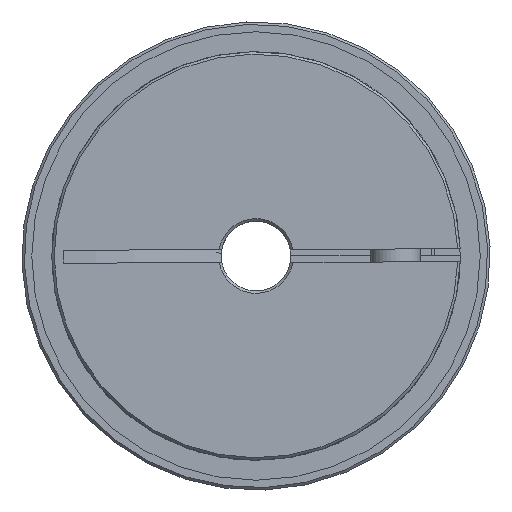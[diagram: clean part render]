
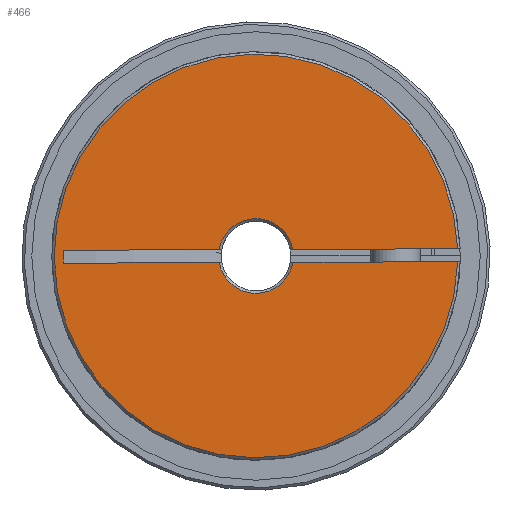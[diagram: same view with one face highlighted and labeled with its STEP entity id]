
A CAD part, left-side view. The second image highlights one B-rep face of the part: STEP entity #466.
In plain terms, the highlighted planar face has unit normal (-1, 0, 0).
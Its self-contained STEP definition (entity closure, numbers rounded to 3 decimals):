
#466 = ADVANCED_FACE( 'NONE', ( #994 ), #995, .F. );
#994 = FACE_OUTER_BOUND( '', #1821, .T. );
#995 = PLANE( '', #1822 );
#1821 = EDGE_LOOP( '', ( #2646, #2647, #2648, #2649, #2650, #2651, #2652, #2653 ) );
#1822 = AXIS2_PLACEMENT_3D( '', #2654, #2655, #2656 );
#2646 = ORIENTED_EDGE( '', *, *, #4131, .T. );
#2647 = ORIENTED_EDGE( '', *, *, #4132, .T. );
#2648 = ORIENTED_EDGE( '', *, *, #4133, .T. );
#2649 = ORIENTED_EDGE( '', *, *, #4134, .T. );
#2650 = ORIENTED_EDGE( '', *, *, #4135, .F. );
#2651 = ORIENTED_EDGE( '', *, *, #4136, .T. );
#2652 = ORIENTED_EDGE( '', *, *, #4137, .F. );
#2653 = ORIENTED_EDGE( '', *, *, #4138, .T. );
#2654 = CARTESIAN_POINT( '', ( 0., 7., 0. ) );
#2655 = DIRECTION( '', ( 1., 0., 0. ) );
#2656 = DIRECTION( '', ( 0., 1., 0. ) );
#4131 = EDGE_CURVE( 'NONE', #4687, #4688, #4689, .T. );
#4132 = EDGE_CURVE( 'NONE', #4688, #4690, #4691, .T. );
#4133 = EDGE_CURVE( 'NONE', #4690, #4692, #4693, .T. );
#4134 = EDGE_CURVE( 'NONE', #4692, #4694, #4695, .F. );
#4135 = EDGE_CURVE( 'NONE', #4696, #4694, #4697, .F. );
#4136 = EDGE_CURVE( 'NONE', #4696, #4698, #4699, .T. );
#4137 = EDGE_CURVE( 'NONE', #4700, #4698, #4701, .F. );
#4138 = EDGE_CURVE( 'NONE', #4700, #4687, #4702, .T. );
#4687 = VERTEX_POINT( 'NONE', #5542 );
#4688 = VERTEX_POINT( 'NONE', #5543 );
#4689 = LINE( '', #5544, #5545 );
#4690 = VERTEX_POINT( 'NONE', #5546 );
#4691 = CIRCLE( '', #5547, 7.5 );
#4692 = VERTEX_POINT( 'NONE', #5548 );
#4693 = LINE( '', #5549, #5550 );
#4694 = VERTEX_POINT( 'NONE', #5551 );
#4695 = CIRCLE( '', #5552, 40.5 );
#4696 = VERTEX_POINT( 'NONE', #5553 );
#4697 = LINE( '', #5554, #5555 );
#4698 = VERTEX_POINT( 'NONE', #5556 );
#4699 = CIRCLE( '', #5557, 7.5 );
#4700 = VERTEX_POINT( 'NONE', #5558 );
#4701 = LINE( '', #5559, #5560 );
#4702 = LINE( '', #5561, #5562 );
#5542 = CARTESIAN_POINT( '', ( 0., 1.3, -38.697 ) );
#5543 = CARTESIAN_POINT( '', ( 0., 1.3, -7.386 ) );
#5544 = CARTESIAN_POINT( '', ( 0., 1.3, 0. ) );
#5545 = VECTOR( '', #6972, 1000. );
#5546 = CARTESIAN_POINT( '', ( 0., 1.3, 7.386 ) );
#5547 = AXIS2_PLACEMENT_3D( '', #6973, #6974, #6975 );
#5548 = CARTESIAN_POINT( '', ( 0., 1.3, 40.479 ) );
#5549 = CARTESIAN_POINT( '', ( 0., 1.3, 0. ) );
#5550 = VECTOR( '', #6976, 1000. );
#5551 = CARTESIAN_POINT( '', ( 0., -1.3, 40.479 ) );
#5552 = AXIS2_PLACEMENT_3D( '', #6977, #6978, #6979 );
#5553 = CARTESIAN_POINT( '', ( 0., -1.3, 7.386 ) );
#5554 = CARTESIAN_POINT( '', ( 0., -1.3, 11. ) );
#5555 = VECTOR( '', #6980, 1000. );
#5556 = CARTESIAN_POINT( '', ( 0., -1.3, -7.386 ) );
#5557 = AXIS2_PLACEMENT_3D( '', #6981, #6982, #6983 );
#5558 = CARTESIAN_POINT( '', ( 0., -1.3, -38.697 ) );
#5559 = CARTESIAN_POINT( '', ( 0., -1.3, 11. ) );
#5560 = VECTOR( '', #6984, 1000. );
#5561 = CARTESIAN_POINT( '', ( 0., -1.3, -38.697 ) );
#5562 = VECTOR( '', #6985, 1000. );
#6972 = DIRECTION( '', ( 0., 0., 1. ) );
#6973 = CARTESIAN_POINT( '', ( 0., 0., 0. ) );
#6974 = DIRECTION( '', ( 1., 0., 0. ) );
#6975 = DIRECTION( '', ( 0., 0., -1. ) );
#6976 = DIRECTION( '', ( 0., 0., 1. ) );
#6977 = CARTESIAN_POINT( '', ( 0., 0., 0. ) );
#6978 = DIRECTION( '', ( 1., 0., 0. ) );
#6979 = DIRECTION( '', ( 0., 0., -1. ) );
#6980 = DIRECTION( '', ( 0., 0., -1. ) );
#6981 = CARTESIAN_POINT( '', ( 0., 0., 0. ) );
#6982 = DIRECTION( '', ( 1., 0., 0. ) );
#6983 = DIRECTION( '', ( 0., 0., -1. ) );
#6984 = DIRECTION( '', ( 0., 0., -1. ) );
#6985 = DIRECTION( '', ( 0., 1., 0. ) );
